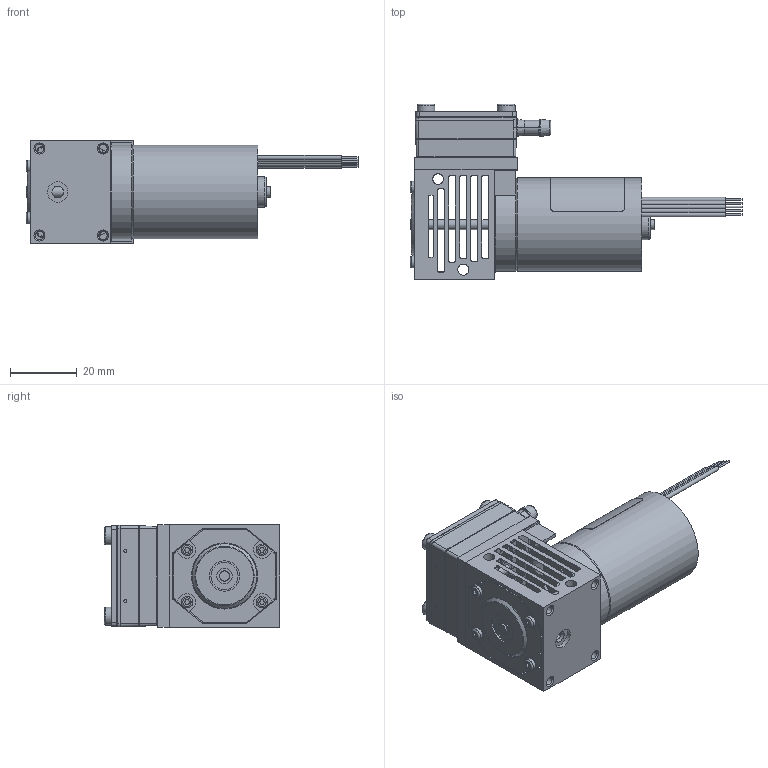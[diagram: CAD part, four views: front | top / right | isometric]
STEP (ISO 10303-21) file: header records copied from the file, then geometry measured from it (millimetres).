
FILE_DESCRIPTION (( 'STEP AP214' ), '1' );
FILE_NAME ('6313 BLDC Standard Hose Barbs.STEP', '2022-01-28T12:04:13', ( '' ), ( '' ), 'SwSTEP 2.0', 'SolidWorks 2020', '' );
FILE_SCHEMA (( 'AUTOMOTIVE_DESIGN' ));
Length unit declared in the file: millimetre
Products named in the file (1): 6313 BLDC Standard Hose Barbs
Bounding box: 99.25 x 52.45 x 30.7 mm (x, y, z)
Surface area: 18593.5 mm2 (no closed solid volume)
Topology: 0 solids, 19 shells, 395 faces, 1574 edges, 1229 vertices
Faces by surface type: cylinder 190, plane 142, bspline 22, torus 21, cone 20
Full cylindrical faces by diameter (mm): 0.5 x5, 1.26 x5, 2.5 x4, 3 x2, 3.3 x1, 3.5 x5, 4.6 x1, 5.2 x2, 5.3 x4, 6 x1, 6.1 x1, 8.1 x1, 9 x1, 9.1 x1, 26.9 x1, 27.9 x1, 28 x1, 29 x1
Entity records: 22280 total; most frequent: CARTESIAN_POINT 5386, DIRECTION 2568, ORIENTED_EDGE 2274, EDGE_CURVE 1478, VERTEX_POINT 1198, AXIS2_PLACEMENT_3D 978, EDGE_LOOP 625, VECTOR 612
